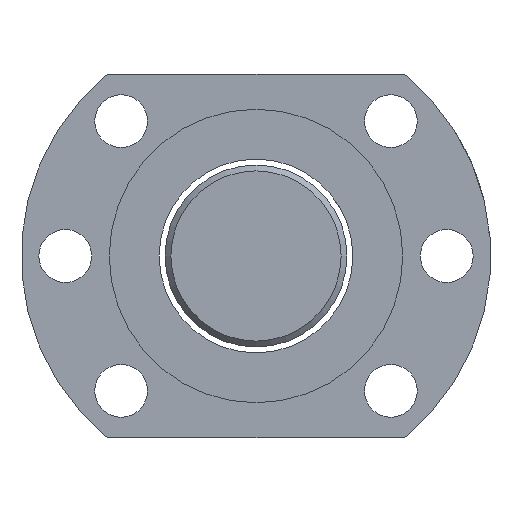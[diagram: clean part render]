
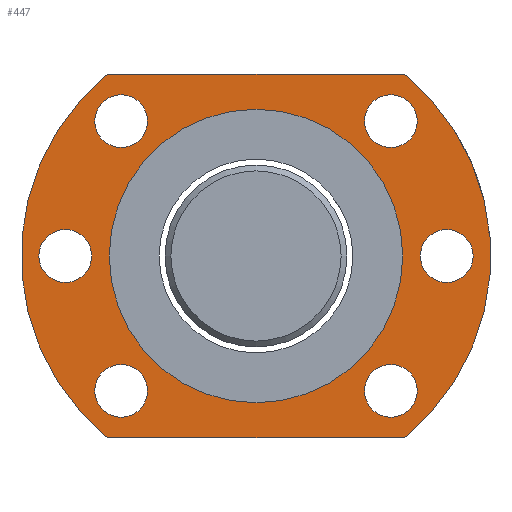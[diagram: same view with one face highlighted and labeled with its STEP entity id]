
A CAD part, left-side view. The second image highlights one B-rep face of the part: STEP entity #447.
In plain terms, the highlighted planar face has unit normal (-1, 0, 0).
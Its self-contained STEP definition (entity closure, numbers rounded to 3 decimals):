
#63=LINE('',#709,#71);
#68=LINE('',#751,#76);
#71=VECTOR('',#591,1000.);
#76=VECTOR('',#604,1000.);
#81=PLANE('',#518);
#121=ORIENTED_EDGE('',*,*,#186,.T.);
#122=ORIENTED_EDGE('',*,*,#190,.T.);
#123=ORIENTED_EDGE('',*,*,#192,.F.);
#124=ORIENTED_EDGE('',*,*,#194,.F.);
#125=ORIENTED_EDGE('',*,*,#196,.F.);
#126=ORIENTED_EDGE('',*,*,#211,.T.);
#127=ORIENTED_EDGE('',*,*,#208,.T.);
#128=ORIENTED_EDGE('',*,*,#205,.T.);
#129=ORIENTED_EDGE('',*,*,#197,.T.);
#130=ORIENTED_EDGE('',*,*,#213,.F.);
#131=ORIENTED_EDGE('',*,*,#188,.T.);
#186=EDGE_CURVE('',#234,#234,#274,.T.);
#188=EDGE_CURVE('',#236,#236,#276,.T.);
#190=EDGE_CURVE('',#238,#238,#278,.T.);
#192=EDGE_CURVE('',#240,#240,#280,.T.);
#194=EDGE_CURVE('',#242,#242,#282,.T.);
#196=EDGE_CURVE('',#244,#244,#284,.T.);
#197=EDGE_CURVE('',#245,#246,#63,.T.);
#205=EDGE_CURVE('',#253,#245,#285,.T.);
#208=EDGE_CURVE('',#255,#253,#68,.T.);
#211=EDGE_CURVE('',#246,#255,#287,.T.);
#213=EDGE_CURVE('',#257,#257,#289,.T.);
#234=VERTEX_POINT('',#682);
#236=VERTEX_POINT('',#687);
#238=VERTEX_POINT('',#692);
#240=VERTEX_POINT('',#697);
#242=VERTEX_POINT('',#702);
#244=VERTEX_POINT('',#707);
#245=VERTEX_POINT('',#710);
#246=VERTEX_POINT('',#711);
#253=VERTEX_POINT('',#746);
#255=VERTEX_POINT('',#752);
#257=VERTEX_POINT('',#761);
#274=CIRCLE('',#494,4.5);
#276=CIRCLE('',#497,4.5);
#278=CIRCLE('',#500,4.5);
#280=CIRCLE('',#503,4.5);
#282=CIRCLE('',#506,4.5);
#284=CIRCLE('',#509,4.5);
#285=CIRCLE('',#512,40.);
#287=CIRCLE('',#516,40.);
#289=CIRCLE('',#519,25.);
#319=EDGE_LOOP('',(#121));
#320=EDGE_LOOP('',(#122));
#321=EDGE_LOOP('',(#123));
#322=EDGE_LOOP('',(#124));
#323=EDGE_LOOP('',(#125));
#324=EDGE_LOOP('',(#126,#127,#128,#129));
#325=EDGE_LOOP('',(#130));
#326=EDGE_LOOP('',(#131));
#379=FACE_BOUND('',#319,.T.);
#380=FACE_BOUND('',#320,.T.);
#381=FACE_BOUND('',#321,.T.);
#382=FACE_BOUND('',#322,.T.);
#383=FACE_BOUND('',#323,.T.);
#384=FACE_BOUND('',#324,.T.);
#385=FACE_BOUND('',#325,.T.);
#386=FACE_BOUND('',#326,.T.);
#447=ADVANCED_FACE('',(#379,#380,#381,#382,#383,#384,#385,#386),#81,.T.);
#494=AXIS2_PLACEMENT_3D('',#681,#557,#558);
#497=AXIS2_PLACEMENT_3D('',#686,#563,#564);
#500=AXIS2_PLACEMENT_3D('',#691,#569,#570);
#503=AXIS2_PLACEMENT_3D('',#696,#575,#576);
#506=AXIS2_PLACEMENT_3D('',#701,#581,#582);
#509=AXIS2_PLACEMENT_3D('',#706,#587,#588);
#512=AXIS2_PLACEMENT_3D('',#745,#597,#598);
#516=AXIS2_PLACEMENT_3D('',#757,#609,#610);
#518=AXIS2_PLACEMENT_3D('',#759,#613,#614);
#519=AXIS2_PLACEMENT_3D('',#760,#615,#616);
#557=DIRECTION('',(1.,0.,0.));
#558=DIRECTION('',(0.,0.,1.));
#563=DIRECTION('',(1.,0.,0.));
#564=DIRECTION('',(0.,0.,1.));
#569=DIRECTION('',(1.,0.,0.));
#570=DIRECTION('',(0.,0.,1.));
#575=DIRECTION('',(-1.,0.,0.));
#576=DIRECTION('',(0.,0.,1.));
#581=DIRECTION('',(-1.,0.,0.));
#582=DIRECTION('',(0.,0.,1.));
#587=DIRECTION('',(-1.,0.,0.));
#588=DIRECTION('',(0.,0.,1.));
#591=DIRECTION('',(0.,1.,0.));
#597=DIRECTION('',(-1.,0.,0.));
#598=DIRECTION('',(0.,0.,-1.));
#604=DIRECTION('',(0.,-1.,0.));
#609=DIRECTION('',(-1.,0.,0.));
#610=DIRECTION('',(0.,0.,-1.));
#613=DIRECTION('',(-1.,0.,0.));
#614=DIRECTION('',(0.,0.,-1.));
#615=DIRECTION('',(-1.,0.,0.));
#616=DIRECTION('',(0.,0.,-1.));
#681=CARTESIAN_POINT('',(-363.878,-180.049,25.026));
#682=CARTESIAN_POINT('',(-363.878,-180.049,29.526));
#686=CARTESIAN_POINT('',(-363.878,-189.568,2.045));
#687=CARTESIAN_POINT('',(-363.878,-189.568,6.545));
#691=CARTESIAN_POINT('',(-363.878,-180.049,-20.936));
#692=CARTESIAN_POINT('',(-363.878,-180.049,-16.436));
#696=CARTESIAN_POINT('',(-363.878,-134.087,-20.936));
#697=CARTESIAN_POINT('',(-363.878,-134.087,-16.436));
#701=CARTESIAN_POINT('',(-363.878,-134.087,25.026));
#702=CARTESIAN_POINT('',(-363.878,-134.087,29.526));
#706=CARTESIAN_POINT('',(-363.878,-124.568,2.045));
#707=CARTESIAN_POINT('',(-363.878,-124.568,6.545));
#709=CARTESIAN_POINT('',(-363.878,-182.347,33.045));
#710=CARTESIAN_POINT('',(-363.878,-182.347,33.045));
#711=CARTESIAN_POINT('',(-363.878,-131.79,33.045));
#745=CARTESIAN_POINT('',(-363.878,-157.068,2.045));
#746=CARTESIAN_POINT('',(-363.878,-182.347,-28.955));
#751=CARTESIAN_POINT('',(-363.878,-131.79,-28.955));
#752=CARTESIAN_POINT('',(-363.878,-131.79,-28.955));
#757=CARTESIAN_POINT('',(-363.878,-157.068,2.045));
#759=CARTESIAN_POINT('',(-363.878,-157.068,2.045));
#760=CARTESIAN_POINT('',(-363.878,-157.068,2.045));
#761=CARTESIAN_POINT('',(-363.878,-157.068,-22.955));
